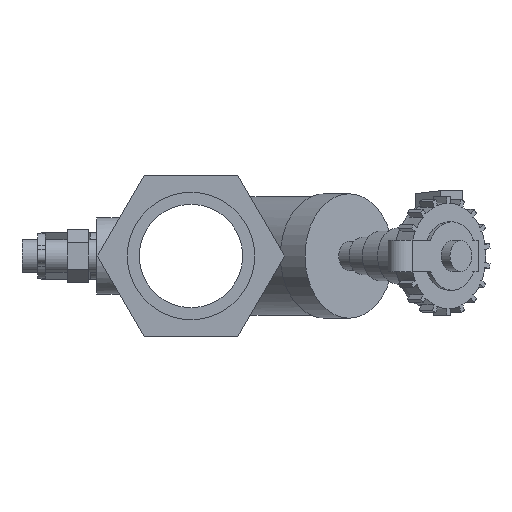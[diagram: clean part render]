
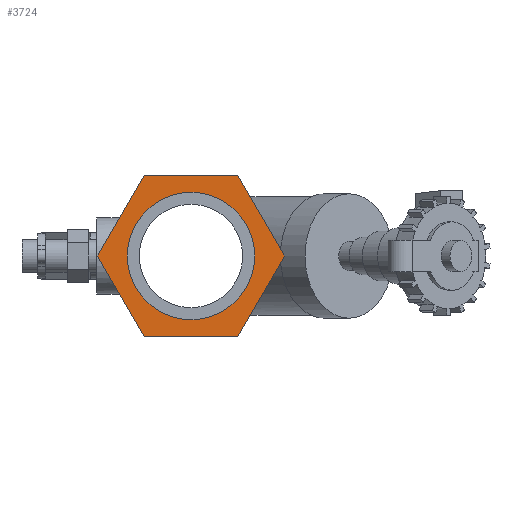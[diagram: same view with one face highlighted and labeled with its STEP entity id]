
A CAD part, left-side view. The second image highlights one B-rep face of the part: STEP entity #3724.
In plain terms, the highlighted planar face has unit normal (-1, 0, 0).
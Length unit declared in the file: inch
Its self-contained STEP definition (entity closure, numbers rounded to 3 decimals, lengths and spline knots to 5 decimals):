
#91=FACE_BOUND('',#628,.T.);
#223=PLANE('',#4098);
#409=FACE_OUTER_BOUND('',#627,.T.);
#627=EDGE_LOOP('',(#3314,#3315,#3316,#3317,#3318,#3319));
#628=EDGE_LOOP('',(#3320));
#952=LINE('',#6537,#1281);
#956=LINE('',#6545,#1285);
#959=LINE('',#6551,#1288);
#962=LINE('',#6557,#1291);
#965=LINE('',#6563,#1294);
#967=LINE('',#6566,#1296);
#1281=VECTOR('',#5105,0.3937);
#1285=VECTOR('',#5111,0.3937);
#1288=VECTOR('',#5116,0.3937);
#1291=VECTOR('',#5121,0.3937);
#1294=VECTOR('',#5126,0.3937);
#1296=VECTOR('',#5130,0.3937);
#1466=CIRCLE('',#4090,1.024);
#1804=VERTEX_POINT('',#6528);
#1806=VERTEX_POINT('',#6534);
#1807=VERTEX_POINT('',#6536);
#1809=VERTEX_POINT('',#6542);
#1811=VERTEX_POINT('',#6548);
#1813=VERTEX_POINT('',#6554);
#1815=VERTEX_POINT('',#6560);
#2309=EDGE_CURVE('',#1804,#1804,#1466,.T.);
#2311=EDGE_CURVE('',#1807,#1806,#952,.T.);
#2315=EDGE_CURVE('',#1806,#1809,#956,.T.);
#2318=EDGE_CURVE('',#1809,#1811,#959,.T.);
#2321=EDGE_CURVE('',#1811,#1813,#962,.T.);
#2324=EDGE_CURVE('',#1813,#1815,#965,.T.);
#2326=EDGE_CURVE('',#1815,#1807,#967,.T.);
#3314=ORIENTED_EDGE('',*,*,#2311,.T.);
#3315=ORIENTED_EDGE('',*,*,#2315,.T.);
#3316=ORIENTED_EDGE('',*,*,#2318,.T.);
#3317=ORIENTED_EDGE('',*,*,#2321,.T.);
#3318=ORIENTED_EDGE('',*,*,#2324,.T.);
#3319=ORIENTED_EDGE('',*,*,#2326,.T.);
#3320=ORIENTED_EDGE('',*,*,#2309,.F.);
#3724=ADVANCED_FACE('',(#409,#91),#223,.T.);
#4090=AXIS2_PLACEMENT_3D('',#6530,#5098,#5099);
#4098=AXIS2_PLACEMENT_3D('',#6568,#5132,#5133);
#5098=DIRECTION('center_axis',(-1.,0.,0.));
#5099=DIRECTION('ref_axis',(0.,1.,0.));
#5105=DIRECTION('',(0.,1.,0.));
#5111=DIRECTION('',(0.,0.5,-0.866));
#5116=DIRECTION('',(0.,-0.5,-0.866));
#5121=DIRECTION('',(0.,-1.,0.));
#5126=DIRECTION('',(0.,-0.5,0.866));
#5130=DIRECTION('',(0.,0.5,0.866));
#5132=DIRECTION('center_axis',(-1.,0.,0.));
#5133=DIRECTION('ref_axis',(0.,0.,1.));
#6528=CARTESIAN_POINT('',(-3.84,-1.024,0.));
#6530=CARTESIAN_POINT('Origin',(-3.84,0.,0.));
#6534=CARTESIAN_POINT('',(-3.84,0.75056,1.3));
#6536=CARTESIAN_POINT('',(-3.84,-0.75056,1.3));
#6537=CARTESIAN_POINT('',(-3.84,0.75056,1.3));
#6542=CARTESIAN_POINT('',(-3.84,1.50111,0.));
#6545=CARTESIAN_POINT('',(-3.84,1.50111,0.));
#6548=CARTESIAN_POINT('',(-3.84,0.75056,-1.3));
#6551=CARTESIAN_POINT('',(-3.84,0.75056,-1.3));
#6554=CARTESIAN_POINT('',(-3.84,-0.75056,-1.3));
#6557=CARTESIAN_POINT('',(-3.84,-0.75056,-1.3));
#6560=CARTESIAN_POINT('',(-3.84,-1.50111,0.));
#6563=CARTESIAN_POINT('',(-3.84,-1.50111,0.));
#6566=CARTESIAN_POINT('',(-3.84,-0.75056,1.3));
#6568=CARTESIAN_POINT('Origin',(-3.84,0.,0.));
